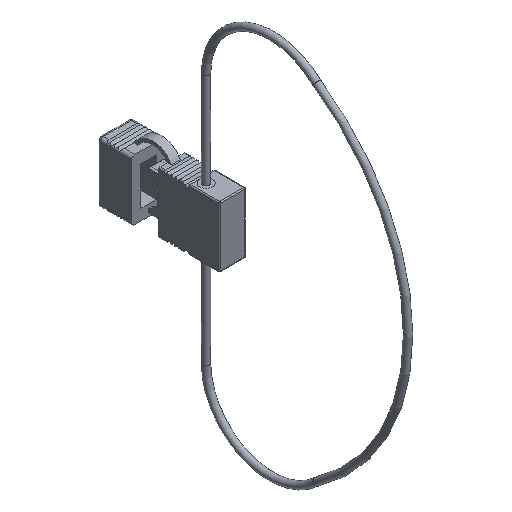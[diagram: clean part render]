
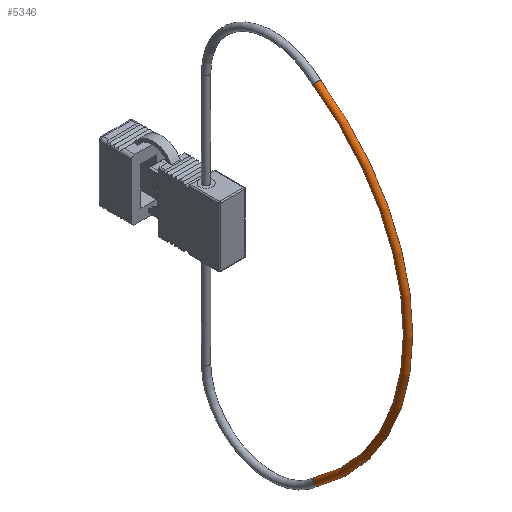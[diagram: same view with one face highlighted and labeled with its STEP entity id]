
A CAD part, isometric view. The second image highlights one B-rep face of the part: STEP entity #5346.
In plain terms, the highlighted toroidal (fillet/blend) face has major radius 103.053 mm and minor radius 1.632 mm.
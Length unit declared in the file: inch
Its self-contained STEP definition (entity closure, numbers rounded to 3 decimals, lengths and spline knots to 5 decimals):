
#15=TOROIDAL_SURFACE('',#5703,4.0572,0.06425);
#650=FACE_OUTER_BOUND('',#945,.T.);
#945=EDGE_LOOP('',(#4640,#4641,#4642,#4643,#4644,#4645,#4646,#4647));
#977=CIRCLE('',#5400,0.06425);
#978=CIRCLE('',#5404,0.06425);
#979=CIRCLE('',#5405,0.06425);
#1017=CIRCLE('',#5695,0.06425);
#1019=CIRCLE('',#5699,0.06425);
#1020=CIRCLE('',#5700,0.06425);
#1022=CIRCLE('',#5704,3.99295);
#2067=VERTEX_POINT('',#6940);
#2069=VERTEX_POINT('',#6946);
#2071=VERTEX_POINT('',#6952);
#2073=VERTEX_POINT('',#6956);
#2074=VERTEX_POINT('',#6958);
#2537=VERTEX_POINT('',#9442);
#2561=EDGE_CURVE('',#2067,#2069,#977,.T.);
#2565=EDGE_CURVE('',#2073,#2074,#978,.T.);
#2566=EDGE_CURVE('',#2074,#2071,#979,.T.);
#3261=EDGE_CURVE('',#2071,#2073,#1017,.T.);
#3263=EDGE_CURVE('',#2069,#2537,#1019,.T.);
#3264=EDGE_CURVE('',#2537,#2067,#1020,.T.);
#3266=EDGE_CURVE('',#2074,#2537,#1022,.T.);
#4640=ORIENTED_EDGE('',*,*,#2565,.F.);
#4641=ORIENTED_EDGE('',*,*,#3261,.F.);
#4642=ORIENTED_EDGE('',*,*,#2566,.F.);
#4643=ORIENTED_EDGE('',*,*,#3266,.T.);
#4644=ORIENTED_EDGE('',*,*,#3263,.F.);
#4645=ORIENTED_EDGE('',*,*,#2561,.F.);
#4646=ORIENTED_EDGE('',*,*,#3264,.F.);
#4647=ORIENTED_EDGE('',*,*,#3266,.F.);
#5346=ADVANCED_FACE('',(#650),#15,.T.);
#5400=AXIS2_PLACEMENT_3D('',#6949,#5766,#5767);
#5404=AXIS2_PLACEMENT_3D('',#6959,#5775,#5776);
#5405=AXIS2_PLACEMENT_3D('',#6960,#5777,#5778);
#5695=AXIS2_PLACEMENT_3D('',#9438,#6807,#6808);
#5699=AXIS2_PLACEMENT_3D('',#9443,#6815,#6816);
#5700=AXIS2_PLACEMENT_3D('',#9444,#6817,#6818);
#5703=AXIS2_PLACEMENT_3D('',#9447,#6823,#6824);
#5704=AXIS2_PLACEMENT_3D('',#9448,#6825,#6826);
#5766=DIRECTION('center_axis',(0.,0.826,0.563));
#5767=DIRECTION('ref_axis',(-1.,0.,0.));
#5775=DIRECTION('center_axis',(0.,0.826,-0.563));
#5776=DIRECTION('ref_axis',(-1.,0.,0.));
#5777=DIRECTION('center_axis',(0.,0.826,-0.563));
#5778=DIRECTION('ref_axis',(-1.,0.,0.));
#6807=DIRECTION('center_axis',(0.,0.826,-0.563));
#6808=DIRECTION('ref_axis',(-1.,0.,0.));
#6815=DIRECTION('center_axis',(0.,0.826,0.563));
#6816=DIRECTION('ref_axis',(-1.,0.,0.));
#6817=DIRECTION('center_axis',(0.,0.826,0.563));
#6818=DIRECTION('ref_axis',(-1.,0.,0.));
#6823=DIRECTION('center_axis',(1.,0.,0.));
#6824=DIRECTION('ref_axis',(0.,-1.,0.));
#6825=DIRECTION('center_axis',(-1.,0.,0.));
#6826=DIRECTION('ref_axis',(0.,-1.,0.));
#6940=CARTESIAN_POINT('',(-0.06,-1.72611,3.40581));
#6946=CARTESIAN_POINT('',(0.00425,-1.68993,3.35271));
#6949=CARTESIAN_POINT('Origin',(-0.06,-1.68993,3.35271));
#6952=CARTESIAN_POINT('',(0.00425,-1.68993,-3.35271));
#6956=CARTESIAN_POINT('',(-0.06,-1.72611,-3.40581));
#6958=CARTESIAN_POINT('',(-0.06,-1.65374,-3.29962));
#6959=CARTESIAN_POINT('Origin',(-0.06,-1.68993,-3.35271));
#6960=CARTESIAN_POINT('Origin',(-0.06,-1.68993,-3.35271));
#9438=CARTESIAN_POINT('Origin',(-0.06,-1.68993,-3.35271));
#9442=CARTESIAN_POINT('',(-0.06,-1.65374,3.29962));
#9443=CARTESIAN_POINT('Origin',(-0.06,-1.68993,3.35271));
#9444=CARTESIAN_POINT('Origin',(-0.06,-1.68993,3.35271));
#9447=CARTESIAN_POINT('Origin',(-0.06,0.59485,0.));
#9448=CARTESIAN_POINT('Origin',(-0.06,0.59485,0.));
